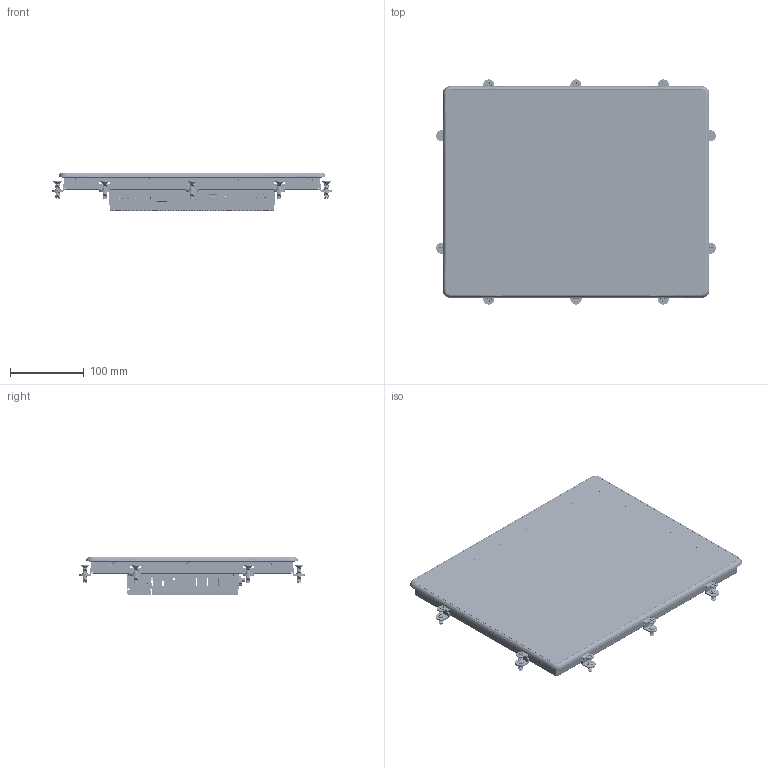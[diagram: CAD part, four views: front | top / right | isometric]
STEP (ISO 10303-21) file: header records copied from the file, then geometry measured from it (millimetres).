
FILE_DESCRIPTION((''),'2;1');
FILE_NAME('NPL4C-150','2026-06-02T10:55:47',('gijyu181'),(''),'CREO PARAMETRIC BY PTC INC, 2018050','CREO PARAMETRIC BY PTC INC, 2018050','');
FILE_SCHEMA(('CONFIG_CONTROL_DESIGN','SHAPE_APPEARANCE_LAYERS_GROUPS'));
Products named in the file (1): NPL4C-150
Bounding box: 378.6 x 304.6 x 52.5 mm (x, y, z)
Volume: 853190.7 mm3; surface area: 730247.7 mm2
Topology: 64 solids, 106 shells, 23257 faces, 67873 edges, 44679 vertices
Faces by surface type: plane 15486, cylinder 5316, extrusion 1236, bspline 505, cone 441, torus 167, sphere 90, revolution 16
Entity records: 961227 total; most frequent: CARTESIAN_POINT 241774, ORIENTED_EDGE 135450, DIRECTION 117619, EDGE_CURVE 67799, VECTOR 53203, LINE 51967, VERTEX_POINT 44677, AXIS2_PLACEMENT_3D 32200
